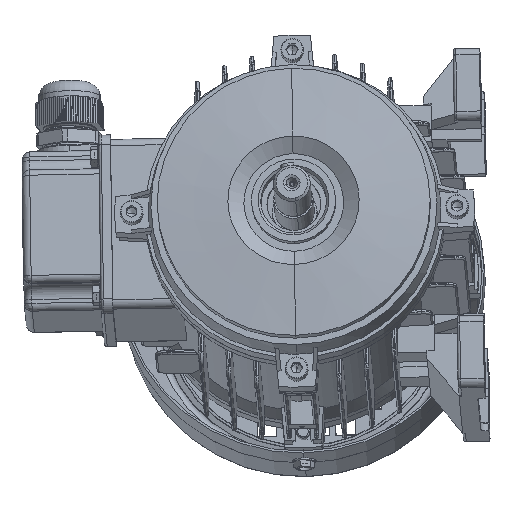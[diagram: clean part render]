
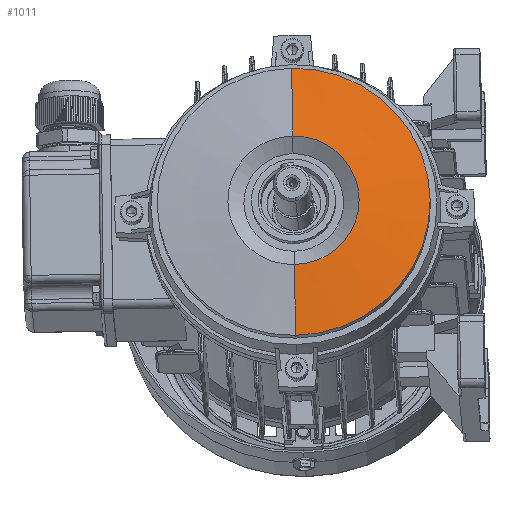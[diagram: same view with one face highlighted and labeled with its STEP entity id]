
A CAD part, left-side view. The second image highlights one B-rep face of the part: STEP entity #1011.
In plain terms, the highlighted conical face has half-angle 84.079 degrees and reference radius 52 mm.
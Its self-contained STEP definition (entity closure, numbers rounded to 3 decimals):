
#530 = ORIENTED_EDGE ( 'NONE', *, *, #90853, .F. ) ;
#1011 = ADVANCED_FACE ( 'NONE', ( #69619 ), #21575, .T. ) ;
#3713 = EDGE_CURVE ( 'NONE', #56076, #32440, #89980, .T. ) ;
#5315 = VERTEX_POINT ( 'NONE', #41895 ) ;
#9064 = DIRECTION ( 'NONE',  ( 0., 0., 1. ) ) ;
#9897 = LINE ( 'NONE', #65289, #55596 ) ;
#12641 = DIRECTION ( 'NONE',  ( 0., 0., 1. ) ) ;
#14456 = ORIENTED_EDGE ( 'NONE', *, *, #28287, .T. ) ;
#16302 = VECTOR ( 'NONE', #76296, 1000. ) ;
#19325 = DIRECTION ( 'NONE',  ( -1., 0., 0. ) ) ;
#21575 = CONICAL_SURFACE ( 'NONE', #30093, 52., 1.467 ) ;
#25804 = EDGE_CURVE ( 'NONE', #5315, #58061, #98171, .T. ) ;
#26615 = CARTESIAN_POINT ( 'NONE',  ( -7.2, 0., 0. ) ) ;
#28287 = EDGE_CURVE ( 'NONE', #56076, #5315, #69171, .T. ) ;
#28657 = CARTESIAN_POINT ( 'NONE',  ( -10., 0., 25. ) ) ;
#30093 = AXIS2_PLACEMENT_3D ( 'NONE', #26615, #79639, #87393 ) ;
#32440 = VERTEX_POINT ( 'NONE', #28657 ) ;
#33854 = ORIENTED_EDGE ( 'NONE', *, *, #25804, .T. ) ;
#36680 = CARTESIAN_POINT ( 'NONE',  ( -7.2, 0., 52. ) ) ;
#41895 = CARTESIAN_POINT ( 'NONE',  ( -7.2, 0., -52. ) ) ;
#43252 = AXIS2_PLACEMENT_3D ( 'NONE', #58665, #19325, #12641 ) ;
#50028 = CARTESIAN_POINT ( 'NONE',  ( -7.2, 0., 0. ) ) ;
#54139 = EDGE_LOOP ( 'NONE', ( #530, #92996, #14456, #33854 ) ) ;
#55596 = VECTOR ( 'NONE', #57908, 1000. ) ;
#56076 = VERTEX_POINT ( 'NONE', #59966 ) ;
#57908 = DIRECTION ( 'NONE',  ( 0.103, 0., 0.995 ) ) ;
#58061 = VERTEX_POINT ( 'NONE', #36680 ) ;
#58665 = CARTESIAN_POINT ( 'NONE',  ( -10., 0., 0. ) ) ;
#59966 = CARTESIAN_POINT ( 'NONE',  ( -10., 0., -25. ) ) ;
#60635 = CARTESIAN_POINT ( 'NONE',  ( -7.2, 0., -52. ) ) ;
#65289 = CARTESIAN_POINT ( 'NONE',  ( -7.2, 0., 52. ) ) ;
#69171 = LINE ( 'NONE', #60635, #16302 ) ;
#69619 = FACE_OUTER_BOUND ( 'NONE', #54139, .T. ) ;
#76296 = DIRECTION ( 'NONE',  ( 0.103, 0., -0.995 ) ) ;
#79639 = DIRECTION ( 'NONE',  ( 1., 0., 0. ) ) ;
#85554 = AXIS2_PLACEMENT_3D ( 'NONE', #50028, #85896, #9064 ) ;
#85896 = DIRECTION ( 'NONE',  ( -1., 0., 0. ) ) ;
#87393 = DIRECTION ( 'NONE',  ( 0., 0., -1. ) ) ;
#89980 = CIRCLE ( 'NONE', #43252, 25. ) ;
#90853 = EDGE_CURVE ( 'NONE', #32440, #58061, #9897, .T. ) ;
#92996 = ORIENTED_EDGE ( 'NONE', *, *, #3713, .F. ) ;
#98171 = CIRCLE ( 'NONE', #85554, 52. ) ;
